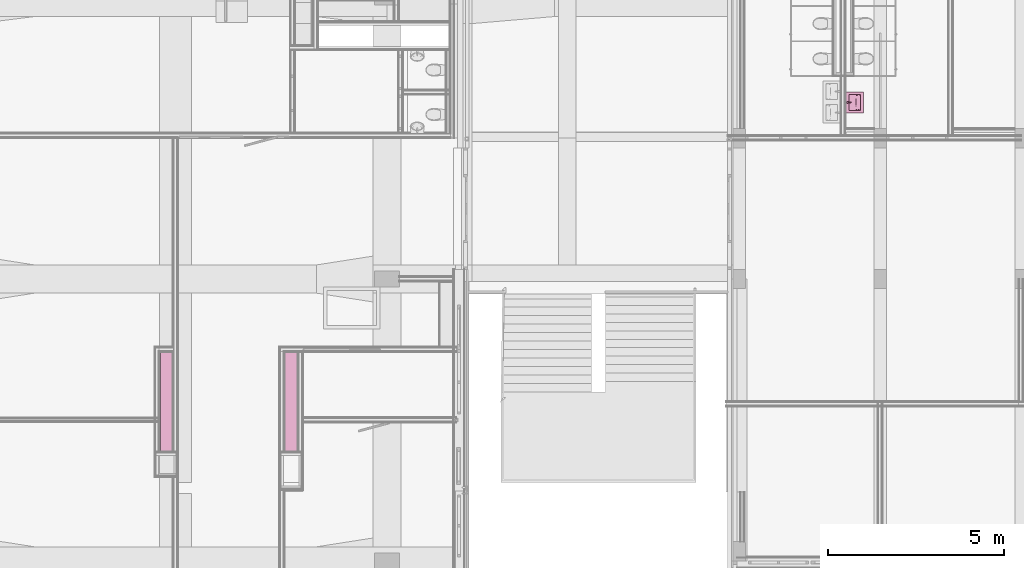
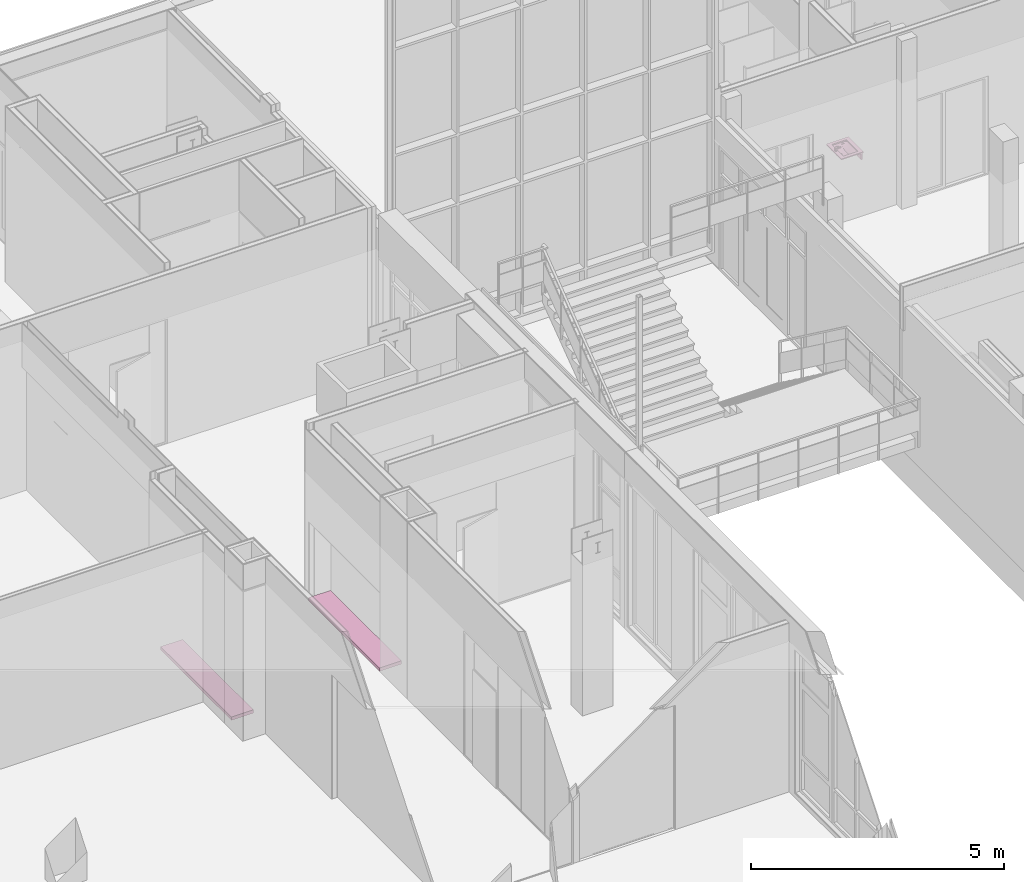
# One storey, part 91 of 94: 3 furnishings.
"""IFC2X3 building model written with IfcOpenShell, lengths in millimetres."""

from ifc_helpers import new_model, entity, si_unit, converted_unit, derived_unit, money_unit, direction, frame, origin_with_axes, place, context, subcontext, project, spatial, open_shell, faceted_brep, surface_model, source, transform, mapped, type_object, type_shapes, element, save


model = new_model("IFC2X3")

# Units and contexts
model_context = context("Model", 3, precision=0.01, world=origin_with_axes(), true_north=direction((0.0, 1.0)))
body_context = subcontext(model_context, "Body", "Model", "MODEL_VIEW")
ifc_project = project(units=[si_unit("LENGTHUNIT", "METRE", prefix="MILLI"), si_unit("AREAUNIT", "SQUARE_METRE"), si_unit("VOLUMEUNIT", "CUBIC_METRE"), converted_unit("PLANEANGLEUNIT", "DEGREE", entity("IfcPlaneAngleMeasure", 0.0174532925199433), si_unit("PLANEANGLEUNIT", "RADIAN"), dimensions=[0, 0, 0, 0, 0, 0, 0]), money_unit("EUR"), converted_unit("TIMEUNIT", "Year", entity("IfcTimeMeasure", 31557600.0), si_unit("TIMEUNIT", "SECOND"), dimensions=[0, 0, 1, 0, 0, 0, 0]), si_unit("MASSUNIT", "GRAM", prefix="KILO"), si_unit("THERMODYNAMICTEMPERATUREUNIT", "DEGREE_CELSIUS"), si_unit("LUMINOUSINTENSITYUNIT", "LUMEN"), si_unit("ENERGYUNIT", "JOULE", prefix="MEGA"), derived_unit("THERMALCONDUCTANCEUNIT", [(si_unit("POWERUNIT", "WATT"), 1), (si_unit("LENGTHUNIT", "METRE"), -1), (si_unit("THERMODYNAMICTEMPERATUREUNIT", "KELVIN"), -1)]), derived_unit("SPECIFICHEATCAPACITYUNIT", [(si_unit("ENERGYUNIT", "JOULE"), 1), (si_unit("MASSUNIT", "GRAM", prefix="KILO"), -1), (si_unit("THERMODYNAMICTEMPERATUREUNIT", "KELVIN"), -1)]), derived_unit("MASSDENSITYUNIT", [(si_unit("MASSUNIT", "GRAM", prefix="KILO"), 1), (si_unit("VOLUMEUNIT", "CUBIC_METRE"), -1)])], contexts=[model_context])

# Site, building, storey
site_placement = place(None, origin_with_axes())
site = spatial("IfcSite", under=ifc_project, at=site_placement, Name="<site naam>", CompositionType="ELEMENT")
building_placement = place(site_placement, origin_with_axes())
building = spatial("IfcBuilding", under=site, at=building_placement, Name="<Naam gebouw>", CompositionType="ELEMENT")
storey_placement = place(building_placement, frame((0.0, 0.0, 4250.0), z_axis=(0.0, 0.0, 1.0), x_axis=(1.0, 0.0, 0.0)))
storey = spatial("IfcBuildingStorey", under=building, at=storey_placement, Name="01 1e verdieping", CompositionType="ELEMENT", Elevation=4250.0)

# Furnishings
furnishing_element_type_1 = type_object("IfcFurnishingElementType", Name="Wasbak meervoudig 27")
shared_shape = source(origin_with_axes(), body_context, "Body", "SurfaceModel", [
    surface_model("IfcShellBasedSurfaceModel", [(-100.0, -27.0, 875.0), (-103.494057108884, -26.53999865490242, 875.0), (-103.494057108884, -26.53999865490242, 855.0), (-100.0, -27.0, 855.0), (-106.75, -25.19134295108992, 875.0), (-106.75, -25.19134295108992, 855.0), (-96.50594289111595, -26.53999865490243, 875.0), (-96.50594289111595, -26.53999865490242, 855.0), (-109.5459415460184, -23.04594154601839, 875.0), (-109.5459415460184, -23.04594154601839, 855.0), (-93.24999999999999, -25.19134295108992, 875.0), (-93.24999999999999, -25.19134295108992, 855.0), (-111.6913429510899, -20.25, 875.0), (-111.6913429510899, -20.25, 855.0), (-90.4540584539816, -23.04594154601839, 875.0), (-90.4540584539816, -23.04594154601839, 855.0), (-113.0399986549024, -16.99405710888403, 875.0), (-113.0399986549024, -16.99405710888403, 855.0), (-88.30865704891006, -20.24999999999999, 875.0), (-88.30865704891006, -20.24999999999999, 855.0), (-113.5, -13.5, 875.0), (-113.5, -13.5, 855.0), (-86.96000134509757, -16.99405710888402, 875.0), (-86.96000134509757, -16.99405710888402, 855.0), (-113.0399986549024, -10.00594289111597, 875.0), (-113.0399986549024, -10.00594289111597, 855.0), (-86.5, -13.5, 875.0), (-86.5, -13.5, 855.0), (-111.6913429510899, -6.750000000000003, 875.0), (-111.6913429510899, -6.750000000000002, 855.0), (-86.96000134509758, -10.00594289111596, 875.0), (-86.96000134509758, -10.00594289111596, 855.0), (-109.5459415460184, -3.954058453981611, 875.0), (-109.5459415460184, -3.954058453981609, 855.0), (-88.30865704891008, -6.749999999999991, 875.0), (-88.30865704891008, -6.74999999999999, 855.0), (-106.75, -1.808657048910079, 875.0), (-106.75, -1.808657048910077, 855.0), (-90.45405845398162, -3.954058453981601, 875.0), (-90.45405845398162, -3.954058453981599, 855.0), (-103.494057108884, -0.4600013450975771, 875.0), (-103.494057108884, -0.4600013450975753, 855.0), (-93.25000000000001, -1.808657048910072, 875.0), (-93.25000000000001, -1.80865704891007, 855.0), (-100.0, 0.0, 875.0), (-100.0, 0.0, 855.0), (-96.50594289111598, -0.4600013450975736, 875.0), (-96.50594289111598, -0.4600013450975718, 855.0)], [open_shell([[[0, 1, 2, 3]], [[1, 4, 5, 2]], [[6, 0, 3, 7]], [[4, 8, 9, 5]], [[10, 6, 7, 11]], [[8, 12, 13, 9]], [[14, 10, 11, 15]], [[12, 16, 17, 13]], [[18, 14, 15, 19]], [[16, 20, 21, 17]], [[22, 18, 19, 23]], [[20, 24, 25, 21]], [[26, 22, 23, 27]], [[24, 28, 29, 25]], [[30, 26, 27, 31]], [[28, 32, 33, 29]], [[34, 30, 31, 35]], [[32, 36, 37, 33]], [[38, 34, 35, 39]], [[36, 40, 41, 37]], [[42, 38, 39, 43]], [[40, 44, 45, 41]], [[46, 42, 43, 47]], [[44, 46, 47, 45]]])]),
    surface_model("IfcShellBasedSurfaceModel", [(100.0, -27.0, 875.0), (96.50594289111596, -26.53999865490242, 875.0), (96.50594289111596, -26.53999865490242, 855.0), (100.0, -27.0, 855.0), (93.25, -25.19134295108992, 875.0), (93.25, -25.19134295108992, 855.0), (103.494057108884, -26.53999865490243, 875.0), (103.494057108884, -26.53999865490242, 855.0), (90.45405845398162, -23.04594154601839, 875.0), (90.45405845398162, -23.04594154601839, 855.0), (106.75, -25.19134295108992, 875.0), (106.75, -25.19134295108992, 855.0), (88.30865704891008, -20.25, 875.0), (88.30865704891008, -20.25, 855.0), (109.5459415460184, -23.04594154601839, 875.0), (109.5459415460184, -23.04594154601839, 855.0), (86.96000134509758, -16.99405710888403, 875.0), (86.96000134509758, -16.99405710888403, 855.0), (111.6913429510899, -20.24999999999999, 875.0), (111.6913429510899, -20.24999999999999, 855.0), (86.50000000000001, -13.5, 875.0), (86.50000000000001, -13.5, 855.0), (113.0399986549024, -16.99405710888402, 875.0), (113.0399986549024, -16.99405710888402, 855.0), (86.96000134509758, -10.00594289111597, 875.0), (86.96000134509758, -10.00594289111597, 855.0), (113.5, -13.5, 875.0), (113.5, -13.5, 855.0), (88.30865704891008, -6.750000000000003, 875.0), (88.30865704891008, -6.750000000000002, 855.0), (113.0399986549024, -10.00594289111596, 875.0), (113.0399986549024, -10.00594289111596, 855.0), (90.4540584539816, -3.954058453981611, 875.0), (90.4540584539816, -3.954058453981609, 855.0), (111.6913429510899, -6.749999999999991, 875.0), (111.6913429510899, -6.74999999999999, 855.0), (93.25, -1.808657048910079, 875.0), (93.25, -1.808657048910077, 855.0), (109.5459415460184, -3.954058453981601, 875.0), (109.5459415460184, -3.954058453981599, 855.0), (96.50594289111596, -0.4600013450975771, 875.0), (96.50594289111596, -0.4600013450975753, 855.0), (106.75, -1.808657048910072, 875.0), (106.75, -1.80865704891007, 855.0), (100.0, 0.0, 875.0), (100.0, 0.0, 855.0), (103.494057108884, -0.4600013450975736, 875.0), (103.494057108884, -0.4600013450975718, 855.0)], [open_shell([[[0, 1, 2, 3]], [[1, 4, 5, 2]], [[6, 0, 3, 7]], [[4, 8, 9, 5]], [[10, 6, 7, 11]], [[8, 12, 13, 9]], [[14, 10, 11, 15]], [[12, 16, 17, 13]], [[18, 14, 15, 19]], [[16, 20, 21, 17]], [[22, 18, 19, 23]], [[20, 24, 25, 21]], [[26, 22, 23, 27]], [[24, 28, 29, 25]], [[30, 26, 27, 31]], [[28, 32, 33, 29]], [[34, 30, 31, 35]], [[32, 36, 37, 33]], [[38, 34, 35, 39]], [[36, 40, 41, 37]], [[42, 38, 39, 43]], [[40, 44, 45, 41]], [[46, 42, 43, 47]], [[44, 46, 47, 45]]])]),
    surface_model("IfcShellBasedSurfaceModel", [(0.0, -179.90845, 770.0), (-5.435199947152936, -179.1928923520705, 770.0), (-5.435199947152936, -179.1928923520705, 750.0), (0.0, -179.90845, 750.0), (-10.5, -177.0949834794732, 770.0), (-10.5, -177.0949834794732, 750.0), (5.435199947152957, -179.1928923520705, 770.0), (5.435199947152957, -179.1928923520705, 750.0), (-14.8492424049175, -173.7576924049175, 770.0), (-14.8492424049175, -173.7576924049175, 750.0), (10.50000000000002, -177.0949834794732, 770.0), (10.50000000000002, -177.0949834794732, 750.0), (-18.18653347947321, -169.40845, 770.0), (-18.18653347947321, -169.40845, 750.0), (14.84924240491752, -173.7576924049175, 770.0), (14.84924240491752, -173.7576924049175, 750.0), (-20.28444235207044, -164.343649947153, 770.0), (-20.28444235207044, -164.343649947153, 750.0), (18.18653347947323, -169.40845, 770.0), (18.18653347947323, -169.40845, 750.0), (-21.0, -158.90845, 770.0), (-21.0, -158.90845, 750.0), (20.28444235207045, -164.3436499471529, 770.0), (20.28444235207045, -164.3436499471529, 750.0), (-20.28444235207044, -153.4732500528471, 770.0), (-20.28444235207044, -153.4732500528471, 750.0), (21.00000000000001, -158.90845, 770.0), (21.00000000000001, -158.90845, 750.0), (-18.18653347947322, -148.40845, 770.0), (-18.18653347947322, -148.40845, 750.0), (20.28444235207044, -153.4732500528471, 770.0), (20.28444235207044, -153.4732500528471, 750.0), (-14.84924240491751, -144.0592075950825, 770.0), (-14.84924240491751, -144.0592075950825, 750.0), (18.18653347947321, -148.40845, 770.0), (18.18653347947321, -148.40845, 750.0), (-10.50000000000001, -140.7219165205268, 770.0), (-10.50000000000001, -140.7219165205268, 750.0), (14.8492424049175, -144.0592075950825, 770.0), (14.8492424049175, -144.0592075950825, 750.0), (-5.435199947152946, -138.6240076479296, 770.0), (-5.435199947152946, -138.6240076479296, 750.0), (10.49999999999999, -140.7219165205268, 770.0), (10.49999999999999, -140.7219165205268, 750.0), (0.0, -137.90845, 770.0), (0.0, -137.90845, 750.0), (5.435199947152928, -138.6240076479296, 770.0), (5.435199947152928, -138.6240076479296, 750.0)], [open_shell([[[0, 1, 2, 3]], [[1, 4, 5, 2]], [[6, 0, 3, 7]], [[4, 8, 9, 5]], [[10, 6, 7, 11]], [[8, 12, 13, 9]], [[14, 10, 11, 15]], [[12, 16, 17, 13]], [[18, 14, 15, 19]], [[16, 20, 21, 17]], [[22, 18, 19, 23]], [[20, 24, 25, 21]], [[26, 22, 23, 27]], [[24, 28, 29, 25]], [[30, 26, 27, 31]], [[28, 32, 33, 29]], [[34, 30, 31, 35]], [[32, 36, 37, 33]], [[38, 34, 35, 39]], [[36, 40, 41, 37]], [[42, 38, 39, 43]], [[40, 44, 45, 41]], [[46, 42, 43, 47]], [[44, 46, 47, 45]]])]),
    faceted_brep([(-300.0, 0.0, 875.0), (300.0, 0.0, 875.0), (300.0, -500.0, 875.0), (-300.0, -500.0, 875.0), (-230.0, -415.0000000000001, 875.0), (230.0, -415.0000000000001, 875.0), (230.0, -84.99999999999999, 875.0), (-230.0, -84.99999999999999, 875.0), (-300.0, 0.0, 900.0), (300.0, 0.0, 900.0), (300.0, -500.0, 900.0), (-300.0, -500.0, 900.0), (-230.0, -415.0000000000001, 900.0), (230.0, -415.0000000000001, 900.0), (230.0, -84.99999999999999, 900.0), (-230.0, -84.99999999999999, 900.0)], [[[0, 1, 2, 3], [4, 5, 6, 7]], [[0, 8, 9, 1]], [[1, 9, 10, 2]], [[2, 10, 11, 3]], [[3, 11, 8, 0]], [[12, 13, 5, 4]], [[13, 14, 6, 5]], [[14, 15, 7, 6]], [[15, 12, 4, 7]], [[10, 9, 8, 11], [12, 15, 14, 13]]]),
    faceted_brep([(-300.0, -475.0, 725.0000000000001), (300.0, -475.0, 725.0000000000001), (300.0, -475.0, 875.0000000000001), (-300.0, -475.0, 875.0000000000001), (-300.0, -450.0, 725.0000000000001), (300.0, -450.0, 725.0000000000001), (300.0, -450.0, 875.0000000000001), (-300.0, -450.0, 875.0000000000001)], [[[0, 1, 2, 3]], [[0, 4, 5, 1]], [[1, 5, 6, 2]], [[3, 2, 6, 7]], [[4, 0, 3, 7]], [[5, 4, 7, 6]]]),
    surface_model("IfcShellBasedSurfaceModel", [(0.0, -188.90845, 775.0), (-15.00000000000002, -184.8892121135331, 775.9175701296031), (-25.98076211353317, -173.90845, 776.58927808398), (-30.0, -158.90845, 776.8351402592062), (-27.88093720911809, -151.0, 776.7055143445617), (-38.33333333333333, -151.0, 777.3449014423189), (-38.33333333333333, -217.0, 777.3449014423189), (0.0, -217.0, 775.0), (-14.99999999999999, -132.9276878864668, 775.9175701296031), (0.0, -128.90845, 775.0), (0.0, -85.00000000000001, 775.0), (-38.33333333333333, -85.00000000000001, 777.3449014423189), (-25.98076211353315, -143.90845, 776.58927808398), (-76.66666666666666, -151.0, 784.4877507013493), (-76.66666666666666, -217.0, 784.4877507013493), (-38.33333333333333, -283.0000000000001, 789.6013200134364), (27.88093720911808, -151.0, 776.7055143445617), (30.0, -158.90845, 776.8351402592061), (25.98076211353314, -173.90845, 776.58927808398), (14.99999999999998, -184.8892121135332, 775.9175701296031), (38.33333333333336, -217.0, 777.3449014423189), (38.33333333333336, -151.0, 777.3449014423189), (15.00000000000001, -132.9276878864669, 775.9175701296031), (25.98076211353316, -143.90845, 776.58927808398), (38.33333333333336, -85.00000000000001, 777.3449014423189), (115.0, -85.00000000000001, 796.7795702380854), (153.3333333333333, -85.00000000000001, 814.9109636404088), (191.6666666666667, -85.00000000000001, 840.1525739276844), (230.0000000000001, -85.00000000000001, 875.0), (-230.0, -85.00000000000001, 875.0), (-191.6666666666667, -85.00000000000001, 840.1525739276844), (-153.3333333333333, -85.00000000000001, 814.9109636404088), (-115.0, -85.00000000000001, 796.7795702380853), (-76.66666666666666, -85.00000000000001, 784.4877507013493), (76.66666666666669, -85.00000000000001, 784.4877507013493), (-115.0, -151.0, 796.7795702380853), (-115.0, -217.0, 796.7795702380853), (-76.66666666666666, -283.0000000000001, 796.0730509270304), (0.0, -283.0000000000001, 787.4709792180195), (76.66666666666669, -217.0, 784.4877507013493), (76.66666666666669, -151.0, 784.4877507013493), (153.3333333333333, -151.0, 814.9109636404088), (115.0, -151.0, 796.7795702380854), (191.6666666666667, -151.0, 840.1525739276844), (230.0000000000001, -151.0, 875.0), (-191.6666666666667, -151.0, 840.1525739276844), (-230.0, -151.0, 875.0), (-153.3333333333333, -151.0, 814.9109636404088), (-153.3333333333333, -217.0, 814.9109636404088), (-115.0, -283.0000000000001, 807.14440558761), (-38.33333333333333, -349.0000000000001, 832.6100259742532), (-76.66666666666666, -349.0000000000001, 836.1306624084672), (38.33333333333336, -283.0000000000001, 789.6013200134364), (115.0, -217.0, 796.7795702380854), (153.3333333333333, -217.0, 814.9109636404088), (191.6666666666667, -217.0, 840.1525739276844), (230.0000000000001, -217.0, 875.0), (230.0000000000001, -283.0000000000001, 875.0), (230.0000000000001, -349.0000000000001, 875.0), (230.0000000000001, -415.0000000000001, 875.0), (-230.0, -283.0000000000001, 875.0), (-230.0, -217.0, 875.0), (-230.0, -415.0000000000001, 875.0), (-230.0, -349.0000000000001, 875.0), (-191.6666666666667, -217.0, 840.1525739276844), (-153.3333333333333, -283.0000000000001, 823.3076267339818), (-115.0, -349.0000000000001, 842.0429293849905), (0.0, -349.0000000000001, 831.4408595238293), (76.66666666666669, -283.0000000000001, 796.0730509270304), (115.0, -283.0000000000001, 807.14440558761), (153.3333333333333, -283.0000000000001, 823.3076267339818), (191.6666666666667, -283.0000000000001, 845.4187372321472), (191.6666666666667, -349.0000000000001, 861.354147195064), (191.6666666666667, -415.0000000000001, 875.0), (-191.6666666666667, -349.0000000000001, 861.354147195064), (-191.6666666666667, -283.0000000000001, 845.4187372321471), (-153.3333333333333, -349.0000000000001, 850.416360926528), (-38.33333333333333, -415.0000000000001, 875.0), (-76.66666666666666, -415.0000000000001, 875.0), (-115.0, -415.0000000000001, 875.0), (38.33333333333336, -349.0000000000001, 832.6100259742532), (-153.3333333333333, -415.0000000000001, 875.0), (-191.6666666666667, -415.0000000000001, 875.0), (153.3333333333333, -415.0000000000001, 875.0), (115.0, -415.0000000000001, 875.0), (76.66666666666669, -415.0000000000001, 875.0), (38.33333333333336, -415.0000000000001, 875.0), (0.0, -415.0000000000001, 875.0), (76.66666666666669, -349.0000000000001, 836.1306624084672), (115.0, -349.0000000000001, 842.0429293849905), (153.3333333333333, -349.0000000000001, 850.416360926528)], [open_shell([[[0, 1, 2, 3, 4, 5, 6, 7]], [[8, 9, 10, 11, 5, 4, 12]], [[6, 5, 13, 14]], [[15, 7, 6]], [[16, 17, 18, 19, 0, 7, 20, 21]], [[9, 22, 23, 16, 21, 24, 10]], [[25, 26, 27, 28, 29, 30, 31, 32, 33, 11, 10, 24, 34]], [[5, 11, 33, 13]], [[14, 13, 35, 36]], [[37, 6, 14]], [[15, 38, 7]], [[37, 15, 6]], [[38, 20, 7]], [[39, 40, 21, 20]], [[40, 34, 24, 21]], [[41, 26, 25, 42]], [[43, 27, 26, 41]], [[44, 28, 27, 43]], [[45, 30, 29, 46]], [[47, 31, 30, 45]], [[35, 32, 31, 47]], [[13, 33, 32, 35]], [[42, 25, 34, 40]], [[36, 35, 47, 48]], [[49, 14, 36]], [[49, 37, 14]], [[50, 38, 15]], [[51, 15, 37]], [[38, 52, 20]], [[53, 42, 40, 39]], [[52, 39, 20]], [[54, 41, 42, 53]], [[55, 43, 41, 54]], [[56, 57, 58, 59, 28, 44]], [[56, 44, 43, 55]], [[60, 61, 46, 29, 62, 63]], [[64, 45, 46, 61]], [[48, 47, 45, 64]], [[65, 36, 48]], [[65, 49, 36]], [[66, 37, 49]], [[50, 67, 38]], [[51, 50, 15]], [[66, 51, 37]], [[67, 52, 38]], [[68, 53, 39]], [[52, 68, 39]], [[69, 54, 53]], [[70, 55, 54]], [[71, 57, 56]], [[72, 58, 57]], [[73, 59, 58]], [[71, 56, 55]], [[60, 64, 61]], [[62, 74, 63]], [[63, 75, 60]], [[75, 48, 64]], [[75, 65, 48]], [[76, 49, 65]], [[76, 66, 49]], [[77, 67, 50]], [[78, 50, 51]], [[79, 51, 66]], [[67, 80, 52]], [[68, 69, 53]], [[80, 68, 52]], [[69, 70, 54]], [[70, 71, 55]], [[72, 57, 71]], [[73, 58, 72]], [[79, 81, 82, 62, 59, 73, 83, 84, 85, 86, 87, 77, 78]], [[60, 75, 64]], [[62, 82, 74]], [[63, 74, 75]], [[74, 65, 75]], [[74, 76, 65]], [[81, 66, 76]], [[77, 87, 67]], [[78, 77, 50]], [[79, 78, 51]], [[81, 79, 66]], [[87, 80, 67]], [[88, 69, 68]], [[80, 88, 68]], [[89, 70, 69]], [[90, 71, 70]], [[90, 72, 71]], [[83, 73, 72]], [[82, 81, 76]], [[84, 83, 90]], [[85, 84, 89]], [[86, 85, 88]], [[87, 86, 80]], [[82, 76, 74]], [[88, 89, 69]], [[86, 88, 80]], [[89, 90, 70]], [[83, 72, 90]], [[84, 90, 89]], [[85, 89, 88]]])]),
    surface_model("IfcShellBasedSurfaceModel", [(30.0, -158.90845, 776.8351402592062), (25.98076211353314, -173.90845, 776.58927808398), (25.98076211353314, -173.90845, 770.0), (30.0, -158.90845, 770.0), (14.99999999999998, -184.8892121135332, 775.9175701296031), (14.99999999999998, -184.8892121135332, 770.0), (0.0, -128.90845, 770.0), (15.00000000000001, -132.9276878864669, 770.0), (25.98076211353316, -143.90845, 770.0), (0.0, -188.90845, 770.0), (-15.00000000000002, -184.8892121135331, 770.0), (-25.98076211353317, -173.90845, 770.0), (-30.0, -158.90845, 770.0), (-25.98076211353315, -143.90845, 770.0), (-14.99999999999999, -132.9276878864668, 770.0), (25.98076211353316, -143.90845, 776.58927808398), (0.0, -188.90845, 775.0), (0.0, -128.90845, 775.0), (15.00000000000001, -132.9276878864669, 775.9175701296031), (-15.00000000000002, -184.8892121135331, 775.9175701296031), (-25.98076211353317, -173.90845, 776.58927808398), (-30.0, -158.90845, 776.8351402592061), (-25.98076211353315, -143.90845, 776.58927808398), (-14.99999999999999, -132.9276878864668, 775.9175701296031)], [open_shell([[[0, 1, 2, 3]], [[1, 4, 5, 2]], [[6, 7, 8, 3, 2, 5, 9, 10, 11, 12, 13, 14]], [[15, 0, 3, 8]], [[4, 16, 9, 5]], [[17, 18, 7, 6]], [[18, 15, 8, 7]], [[16, 19, 10, 9]], [[19, 20, 11, 10]], [[20, 21, 12, 11]], [[21, 22, 13, 12]], [[22, 23, 14, 13]], [[23, 17, 6, 14]]])]),
    faceted_brep([(12.50000000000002, -23.34936490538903, 900.0), (0.0, -19.99999999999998, 900.0), (0.0, -23.79807692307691, 975.9615384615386), (10.587322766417, -26.66221905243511, 976.507089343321), (21.65063509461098, -32.5, 900.0), (25.0, -45.00000000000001, 900.0), (21.65063509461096, -57.5, 900.0), (12.49999999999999, -66.65063509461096, 900.0), (0.0, -69.99999999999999, 900.0), (-12.50000000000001, -66.65063509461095, 900.0), (-21.65063509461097, -57.49999999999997, 900.0), (-25.0, -44.99999999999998, 900.0), (-21.65063509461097, -32.49999999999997, 900.0), (-12.5, -23.34936490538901, 900.0), (-10.58732276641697, -26.6622190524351, 976.507089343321), (-18.27355038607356, -34.44976076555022, 977.9904306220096), (-21.0, -44.99999999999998, 980.0), (-18.10034137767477, -55.45023696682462, 981.9905213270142), (-10.41410590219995, -63.03776053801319, 983.4357639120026), (0.0, -65.80188679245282, 983.9622641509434), (10.41410590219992, -63.0377605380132, 983.4357639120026), (18.10034137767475, -55.45023696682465, 981.9905213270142), (21.0, -45.00000000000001, 980.0), (18.27355038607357, -34.44976076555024, 977.9904306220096)], [[[0, 1, 2, 3]], [[0, 4, 5, 6, 7, 8, 9, 10, 11, 12, 13, 1]], [[1, 13, 14, 2]], [[3, 2, 14, 15, 16, 17, 18, 19, 20, 21, 22, 23]], [[4, 0, 3, 23]], [[5, 4, 23, 22]], [[6, 5, 22, 21]], [[7, 6, 21, 20]], [[8, 7, 20, 19]], [[9, 8, 19, 18]], [[10, 9, 18, 17]], [[11, 10, 17, 16]], [[12, 11, 16, 15]], [[13, 12, 15, 14]]]),
    faceted_brep([(9.000000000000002, -148.0, 935.0), (7.794228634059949, -143.5, 935.0), (7.794228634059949, -143.5, 945.0000000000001), (9.000000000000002, -148.0, 945.0000000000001), (7.794228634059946, -152.5, 935.0), (4.499999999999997, -155.7942286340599, 935.0), (0.0, -157.0, 935.0), (-4.500000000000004, -155.7942286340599, 935.0), (-7.794228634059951, -152.5, 935.0), (-9.000000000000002, -148.0, 935.0), (-7.794228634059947, -143.5, 935.0), (-4.499999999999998, -140.20577136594, 935.0), (0.0, -139.0, 935.0), (4.500000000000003, -140.20577136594, 935.0), (4.500000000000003, -140.20577136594, 945.0000000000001), (0.0, -139.0, 945.0000000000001), (-4.499999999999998, -140.20577136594, 945.0000000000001), (-7.794228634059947, -143.5, 945.0000000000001), (-9.000000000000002, -148.0, 945.0000000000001), (-7.794228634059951, -152.5, 945.0000000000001), (-4.500000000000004, -155.7942286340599, 945.0000000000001), (0.0, -157.0, 945.0000000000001), (4.499999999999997, -155.7942286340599, 945.0000000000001), (7.794228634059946, -152.5, 945.0000000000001)], [[[0, 1, 2, 3]], [[0, 4, 5, 6, 7, 8, 9, 10, 11, 12, 13, 1]], [[1, 13, 14, 2]], [[3, 2, 14, 15, 16, 17, 18, 19, 20, 21, 22, 23]], [[4, 0, 3, 23]], [[5, 4, 23, 22]], [[6, 5, 22, 21]], [[7, 6, 21, 20]], [[8, 7, 20, 19]], [[9, 8, 19, 18]], [[10, 9, 18, 17]], [[11, 10, 17, 16]], [[12, 11, 16, 15]], [[13, 12, 15, 14]]]),
    faceted_brep([(-12.87171762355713, -24.74369617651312, 960.0000000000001), (-21.72780530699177, -34.80679463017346, 960.0000000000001), (-23.8054, -48.04989999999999, 960.0000000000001), (-10.9119908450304, -149.3883719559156, 960.0000000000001), (-9.02887546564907, -154.2831941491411, 960.0000000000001), (-5.093324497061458, -157.7497264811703, 960.0000000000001), (3.626798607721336e-05, -158.9999600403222, 960.0000000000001), (5.093388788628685, -157.7496928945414, 960.0000000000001), (9.02891689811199, -154.2831346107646, 960.0000000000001), (10.912, -149.3883, 960.0000000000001), (23.80539974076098, -48.0499020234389, 960.0000000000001), (21.72780617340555, -34.80679647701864, 960.0000000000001), (12.87171934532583, -24.74369727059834, 960.0000000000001), (1.019988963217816e-06, -21.00002168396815, 960.0000000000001), (11.00000000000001, -25.94744111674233, 960.0000000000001), (19.05255888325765, -33.99999999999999, 960.0000000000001), (22.0, -44.99999999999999, 960.0000000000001), (19.05255888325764, -56.0, 960.0000000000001), (10.99999999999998, -64.05255888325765, 960.0000000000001), (0.0, -66.99999999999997, 960.0000000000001), (-11.00000000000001, -64.05255888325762, 960.0000000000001), (-19.05255888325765, -55.99999999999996, 960.0000000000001), (-22.0, -44.99999999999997, 960.0000000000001), (-19.05255888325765, -33.99999999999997, 960.0000000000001), (-10.99999999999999, -25.94744111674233, 960.0000000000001), (0.0, -22.99999999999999, 960.0000000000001), (-21.72780530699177, -34.80679463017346, 945.0000000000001), (-12.87171762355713, -24.74369617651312, 945.0000000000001), (-23.8054, -48.04989999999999, 945.0000000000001), (-10.9119908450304, -149.3883719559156, 945.0000000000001), (-9.02887546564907, -154.2831941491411, 945.0000000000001), (-5.093324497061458, -157.7497264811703, 945.0000000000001), (3.626798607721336e-05, -158.9999600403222, 945.0000000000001), (5.093388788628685, -157.7496928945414, 945.0000000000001), (9.02891689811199, -154.2831346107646, 945.0000000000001), (10.912, -149.3883, 945.0000000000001), (23.80539974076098, -48.0499020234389, 945.0000000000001), (21.72780617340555, -34.80679647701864, 945.0000000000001), (12.87171934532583, -24.74369727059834, 945.0000000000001), (1.019988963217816e-06, -21.00002168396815, 945.0000000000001), (11.37500000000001, -25.29792206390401, 945.0000000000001), (19.70207793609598, -33.62499999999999, 945.0000000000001), (22.75, -44.99999999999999, 945.0000000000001), (19.70207793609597, -56.37500000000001, 945.0000000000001), (11.37499999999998, -64.70207793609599, 945.0000000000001), (0.0, -67.74999999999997, 945.0000000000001), (-11.37500000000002, -64.70207793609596, 945.0000000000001), (-19.70207793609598, -56.37499999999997, 945.0000000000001), (-22.75, -44.99999999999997, 945.0000000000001), (-19.70207793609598, -33.62499999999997, 945.0000000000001), (-11.37499999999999, -25.29792206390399, 945.0000000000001), (0.0, -22.24999999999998, 945.0000000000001)], [[[0, 1, 2, 3, 4, 5, 6, 7, 8, 9, 10, 11, 12, 13], [14, 15, 16, 17, 18, 19, 20, 21, 22, 23, 24, 25]], [[26, 1, 0, 27]], [[28, 2, 1, 26]], [[29, 3, 2, 28]], [[30, 4, 3, 29]], [[31, 5, 4, 30]], [[32, 6, 5, 31]], [[33, 7, 6, 32]], [[34, 8, 7, 33]], [[35, 9, 8, 34]], [[36, 10, 9, 35]], [[37, 11, 10, 36]], [[38, 12, 11, 37]], [[39, 13, 12, 38]], [[27, 0, 13, 39]], [[40, 41, 15, 14]], [[41, 42, 16, 15]], [[42, 43, 17, 16]], [[43, 44, 18, 17]], [[44, 45, 19, 18]], [[20, 19, 45, 46]], [[21, 20, 46, 47]], [[22, 21, 47, 48]], [[23, 22, 48, 49]], [[24, 23, 49, 50]], [[50, 51, 25, 24]], [[51, 40, 14, 25]], [[32, 31, 30, 29, 28, 26, 27, 39, 38, 37, 36, 35, 34, 33], [44, 43, 42, 41, 40, 51, 50, 49, 48, 47, 46, 45]]]),
    faceted_brep([(23.893, -46.69256934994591, 980.3223941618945), (21.29642141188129, -34.2252811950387, 977.9476726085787), (21.29642141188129, -33.47683276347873, 981.8770268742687), (23.893, -45.94412091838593, 984.2517484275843), (20.94593649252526, -86.83670229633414, 987.9688956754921), (17.66313911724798, -96.51436651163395, 989.8122602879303), (10.06143529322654, -103.46374609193, 991.135951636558), (-0.0004426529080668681, -105.9856119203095, 991.6163070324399), (-10.06221236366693, -103.4633294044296, 991.1358722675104), (-17.66361794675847, -96.51363502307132, 989.8121209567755), (-20.946, -86.83583486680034, 987.9687304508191), (-23.89302047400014, -46.69229042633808, 980.3223410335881), (-21.29629106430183, -34.22503258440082, 977.9476252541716), (-12.4716815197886, -24.90880255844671, 976.173105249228), (0.0001423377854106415, -21.46803549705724, 975.5177210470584), (12.47192457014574, -24.90894815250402, 976.1731329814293), (14.0, -70.54080272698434, 984.8649148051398), (-14.0, -70.54080272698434, 984.8649148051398), (-14.0, -85.3564329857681, 987.6869396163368), (-12.12435565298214, -92.23280295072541, 988.9967243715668), (-7.000000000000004, -97.26665513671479, 989.9555533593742), (0.0, -99.10917291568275, 990.3065091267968), (6.999999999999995, -97.2666551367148, 989.9555533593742), (12.12435565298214, -92.23280295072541, 988.9967243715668), (14.0, -85.35643298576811, 987.6869396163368), (12.47192457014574, -24.16049972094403, 980.1024872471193), (0.0001423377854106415, -20.71958706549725, 979.4470753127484), (-12.4716815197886, -24.16035412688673, 980.1024595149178), (-21.29629106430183, -33.47658415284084, 981.8769795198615), (-23.89302047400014, -45.94384199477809, 984.2516952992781), (-20.946, -86.08738643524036, 991.898084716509), (-17.66361794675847, -95.76518659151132, 993.7414752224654), (-10.06221236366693, -102.7148809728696, 995.0652265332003), (-0.0004426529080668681, -105.2371634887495, 995.5456612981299), (10.06143529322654, -102.71529766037, 995.0653059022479), (17.66313911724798, -95.76591808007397, 993.7416145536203), (20.94593649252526, -86.08825386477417, 991.8982499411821), (14.0, -69.79235429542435, 988.7942690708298), (14.0, -84.60798455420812, 991.6162938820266), (12.12435565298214, -91.48435451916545, 992.9260786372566), (6.999999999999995, -96.51820670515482, 993.8849076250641), (0.0, -98.36072448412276, 994.2358633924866), (-7.000000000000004, -96.51820670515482, 993.8849076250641), (-12.12435565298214, -91.48435451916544, 992.9260786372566), (-14.0, -84.60798455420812, 991.6162938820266), (-14.0, -69.79235429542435, 988.7942690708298)], [[[0, 1, 2, 3]], [[0, 4, 5, 6, 7, 8, 9, 10, 11, 12, 13, 14, 15, 1], [16, 17, 18, 19, 20, 21, 22, 23, 24]], [[1, 15, 25, 2]], [[3, 2, 25, 26, 27, 28, 29, 30, 31, 32, 33, 34, 35, 36], [37, 38, 39, 40, 41, 42, 43, 44, 45]], [[4, 0, 3, 36]], [[5, 4, 36, 35]], [[6, 5, 35, 34]], [[7, 6, 34, 33]], [[8, 7, 33, 32]], [[9, 8, 32, 31]], [[10, 9, 31, 30]], [[11, 10, 30, 29]], [[12, 11, 29, 28]], [[13, 12, 28, 27]], [[14, 13, 27, 26]], [[15, 14, 26, 25]], [[17, 16, 37, 45]], [[18, 17, 45, 44]], [[19, 18, 44, 43]], [[20, 19, 43, 42]], [[21, 20, 42, 41]], [[22, 21, 41, 40]], [[23, 22, 40, 39]], [[24, 23, 39, 38]], [[16, 24, 38, 37]]]),
])
type_shapes(furnishing_element_type_1, [shared_shape])
furnishing_1_placement = place(storey_placement, frame((15023.24165960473, 13012.49869562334, 0.0), z_axis=(0.0, 0.0, 1.0), x_axis=(0.0, 1.0, 0.0)))
element("IfcFurnishingElement", 1, at=furnishing_1_placement, inside=storey, type_object=furnishing_element_type_1, Name="74_Wasmachine_Lege", context=body_context, shape_type="MappedRepresentation", body=[
    mapped(shared_shape, transform((0.0, 0.0, 0.0))),
])
furnishing_element_type_2 = type_object("IfcFurnishingElementType", Name="Kubus 27")
furnishing_2_placement = place(storey_placement, frame((-4424.999545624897, 3115.103741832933, 0.0), z_axis=(0.0, 0.0, 1.0), x_axis=(1.0, 0.0, 0.0)))
element("IfcFurnishingElement", 2, at=furnishing_2_placement, inside=storey, type_object=furnishing_element_type_2, Name="73_Wasmachine_Lege", context=body_context, shape_type="Brep", body=[
    faceted_brep([(500.0, 0.0, 0.0), (0.0, 0.0, 0.0), (0.0, 2799.999999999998, 0.0), (500.0, 2799.999999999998, 0.0), (500.0, 0.0, 80.0), (0.0, 0.0, 80.0), (0.0, 2799.999999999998, 80.0), (500.0, 2799.999999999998, 80.0)], [[[0, 1, 2, 3]], [[1, 0, 4, 5]], [[2, 1, 5, 6]], [[3, 2, 6, 7]], [[0, 3, 7, 4]], [[5, 4, 7, 6]]]),
])
furnishing_3_placement = place(storey_placement, frame((-1049.999999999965, 3115.000000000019, 0.0), z_axis=(0.0, 0.0, 1.0), x_axis=(1.0, 0.0, 0.0)))
element("IfcFurnishingElement", 3, at=furnishing_3_placement, inside=storey, type_object=furnishing_element_type_2, Name="73_Wasmachine_Lege", context=body_context, shape_type="Brep", body=[
    faceted_brep([(500.0, 0.0, 0.0), (0.0, 0.0, 0.0), (0.0, 2799.999999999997, 0.0), (500.0, 2799.999999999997, 0.0), (500.0, 0.0, 80.0), (0.0, 0.0, 80.0), (0.0, 2799.999999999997, 80.0), (500.0, 2799.999999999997, 80.0)], [[[0, 1, 2, 3]], [[1, 0, 4, 5]], [[2, 1, 5, 6]], [[3, 2, 6, 7]], [[0, 3, 7, 4]], [[5, 4, 7, 6]]]),
])

save(model, "model.ifc")
